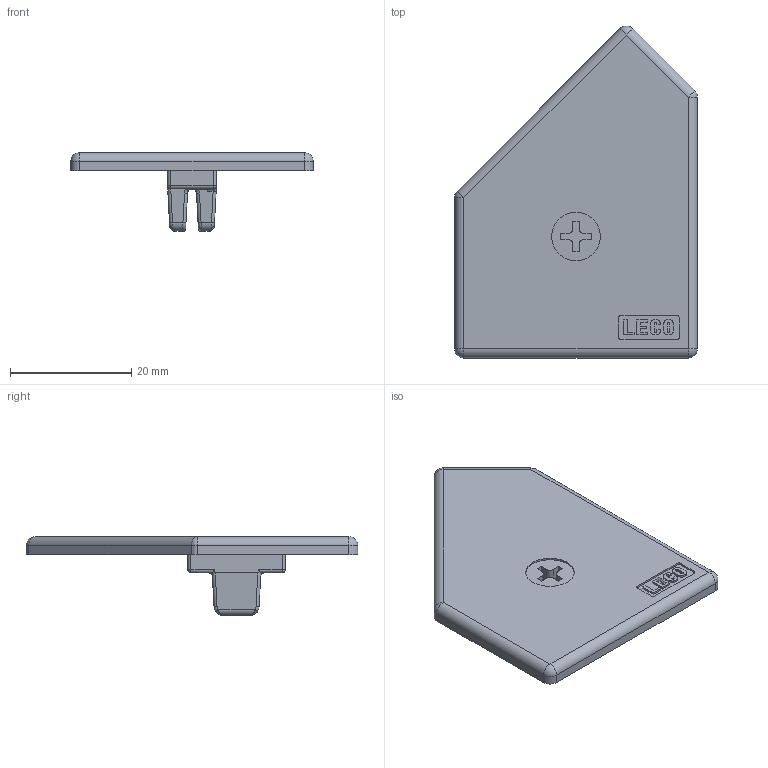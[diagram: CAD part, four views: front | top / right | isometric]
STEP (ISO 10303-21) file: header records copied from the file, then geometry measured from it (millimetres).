
FILE_DESCRIPTION(('STEP AP214'),'1');
FILE_NAME('E40A-R.stp','2017-07-24T04:40:09',(' '),(' '),'Spatial InterOp 3D',' ',' ');
FILE_SCHEMA(('automotive_design'));
Length unit declared in the file: millimetre
Products named in the file (1): E40A-R
Bounding box: 40 x 54.66 x 13 mm (x, y, z)
Volume: 5188 mm3; surface area: 4517 mm2
Topology: 1 solids, 1 shells, 208 faces, 535 edges, 326 vertices
Faces by surface type: cylinder 89, plane 84, bspline 20, sphere 11, torus 4
Full cylindrical faces by diameter (mm): 8 x1
Entity records: 10583 total; most frequent: CARTESIAN_POINT 3893, DIRECTION 1080, ORIENTED_EDGE 1040, EDGE_CURVE 520, AXIS2_PLACEMENT_3D 393, VERTEX_POINT 325, LINE 294, VECTOR 294
